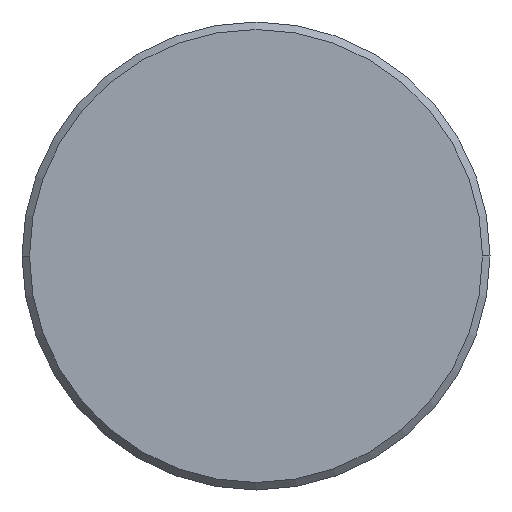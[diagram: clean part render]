
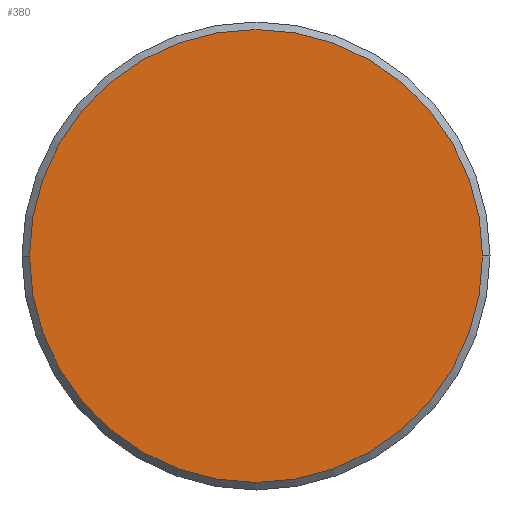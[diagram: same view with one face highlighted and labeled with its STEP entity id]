
A CAD part, left-side view. The second image highlights one B-rep face of the part: STEP entity #380.
In plain terms, the highlighted planar face has unit normal (-1, 0, 0).
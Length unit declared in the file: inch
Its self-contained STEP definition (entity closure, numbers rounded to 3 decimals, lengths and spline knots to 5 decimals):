
#21 = DIRECTION ( 'NONE',  ( 0., -1., 0. ) ) ;
#39 = FACE_OUTER_BOUND ( 'NONE', #223, .T. ) ;
#40 = CARTESIAN_POINT ( 'NONE',  ( 0., 0.121, 0. ) ) ;
#42 = DIRECTION ( 'NONE',  ( 0., -1., 0. ) ) ;
#45 = ORIENTED_EDGE ( 'NONE', *, *, #228, .T. ) ;
#50 = CARTESIAN_POINT ( 'NONE',  ( 0., -0.121, 0. ) ) ;
#66 = ORIENTED_EDGE ( 'NONE', *, *, #246, .T. ) ;
#99 = CARTESIAN_POINT ( 'NONE',  ( 0., 0., 0. ) ) ;
#101 = CIRCLE ( 'NONE', #314, 0.121 ) ;
#115 = VERTEX_POINT ( 'NONE', #40 ) ;
#117 = CIRCLE ( 'NONE', #352, 0.121 ) ;
#132 = DIRECTION ( 'NONE',  ( -1., 0., 0. ) ) ;
#152 = DIRECTION ( 'NONE',  ( -1., 0., 0. ) ) ;
#223 = EDGE_LOOP ( 'NONE', ( #66, #45 ) ) ;
#228 = EDGE_CURVE ( 'NONE', #371, #115, #117, .T. ) ;
#246 = EDGE_CURVE ( 'NONE', #115, #371, #101, .T. ) ;
#313 = PLANE ( 'NONE',  #379 ) ;
#314 = AXIS2_PLACEMENT_3D ( 'NONE', #99, #366, #315 ) ;
#315 = DIRECTION ( 'NONE',  ( 0., -1., 0. ) ) ;
#334 = CARTESIAN_POINT ( 'NONE',  ( 0., 0., 0. ) ) ;
#352 = AXIS2_PLACEMENT_3D ( 'NONE', #334, #152, #42 ) ;
#365 = CARTESIAN_POINT ( 'NONE',  ( 0., 0., 0. ) ) ;
#366 = DIRECTION ( 'NONE',  ( -1., 0., 0. ) ) ;
#371 = VERTEX_POINT ( 'NONE', #50 ) ;
#379 = AXIS2_PLACEMENT_3D ( 'NONE', #365, #132, #21 ) ;
#380 = ADVANCED_FACE ( 'NONE', ( #39 ), #313, .T. ) ;
